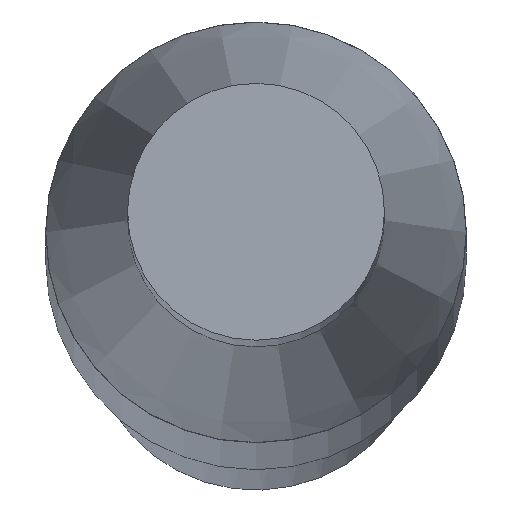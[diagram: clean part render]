
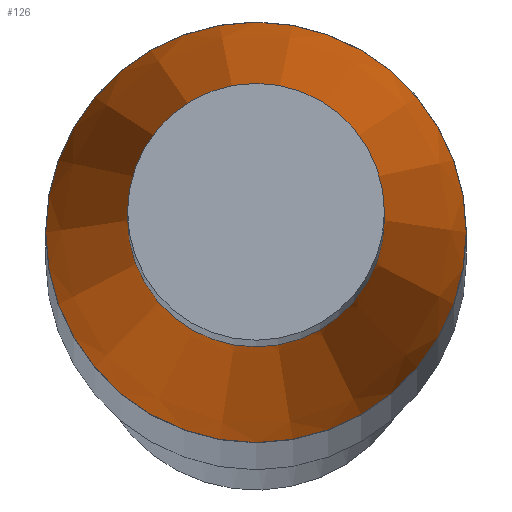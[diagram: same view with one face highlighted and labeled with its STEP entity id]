
A CAD part, left-side view. The second image highlights one B-rep face of the part: STEP entity #126.
In plain terms, the highlighted conical face has half-angle 6.875 degrees and reference radius 164.401 mm.
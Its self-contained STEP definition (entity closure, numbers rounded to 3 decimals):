
#115=CONICAL_SURFACE('',#281,164.402,6.875);
#126=ADVANCED_FACE('',(#151,#152),#115,.T.);
#151=FACE_BOUND('',#178,.T.);
#152=FACE_BOUND('',#179,.T.);
#178=EDGE_LOOP('',(#206));
#179=EDGE_LOOP('',(#207));
#206=ORIENTED_EDGE('',*,*,#241,.T.);
#207=ORIENTED_EDGE('',*,*,#242,.T.);
#227=VERTEX_POINT('',#380);
#228=VERTEX_POINT('',#382);
#241=EDGE_CURVE('',#227,#227,#255,.T.);
#242=EDGE_CURVE('',#228,#228,#256,.T.);
#255=CIRCLE('',#279,91.631);
#256=CIRCLE('',#280,164.219);
#279=AXIS2_PLACEMENT_3D('',#379,#329,#330);
#280=AXIS2_PLACEMENT_3D('',#381,#331,#332);
#281=AXIS2_PLACEMENT_3D('',#383,#333,#334);
#329=DIRECTION('',(1.,0.,-0.017));
#330=DIRECTION('',(0.,-1.,0.001));
#331=DIRECTION('',(-1.,0.,0.017));
#332=DIRECTION('',(0.,1.,-0.001));
#333=DIRECTION('',(1.,0.,-0.017));
#334=DIRECTION('',(0.,-1.,0.001));
#379=CARTESIAN_POINT('',(8116.431,-5.361,-38.029));
#380=CARTESIAN_POINT('',(8116.432,-96.991,-37.981));
#381=CARTESIAN_POINT('',(8718.378,-5.361,-48.536));
#382=CARTESIAN_POINT('',(8718.377,158.858,-48.621));
#383=CARTESIAN_POINT('',(8719.893,-5.361,-48.562));
